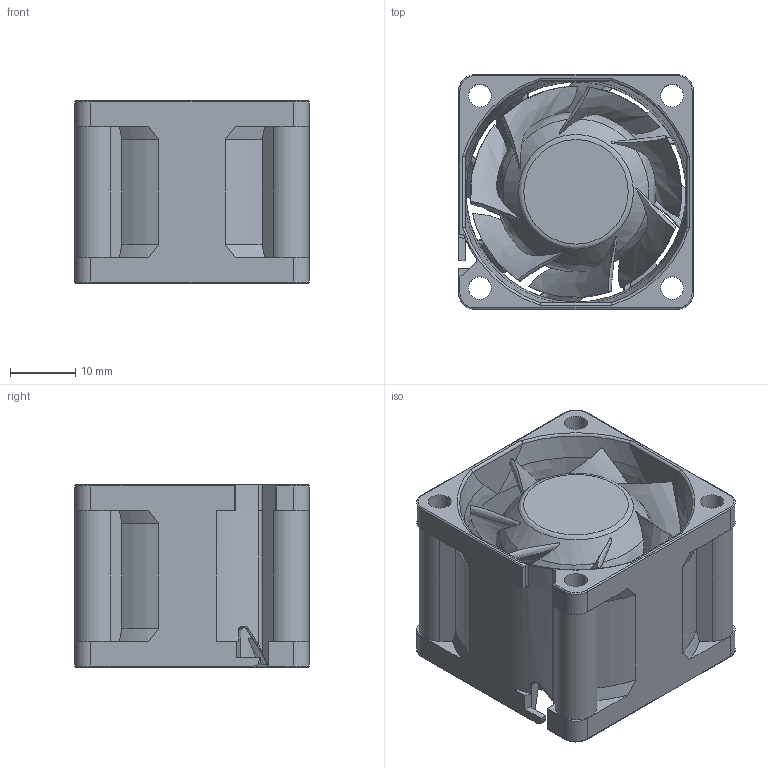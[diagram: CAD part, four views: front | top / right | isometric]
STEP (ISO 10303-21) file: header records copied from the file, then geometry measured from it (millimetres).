
FILE_DESCRIPTION(('STEP AP203'),'2;1');
FILE_NAME('3628GV_RIBBED.stp','2017-04-12T13:48:18',(''),(''),'2013.1.116','THINKDESIGN','');
FILE_SCHEMA(('CONFIG_CONTROL_DESIGN'));
Bounding box: 36 x 36 x 28 mm (x, y, z)
Volume: 20424.4 mm3; surface area: 14005.7 mm2
Topology: 1 solids, 1 shells, 235 faces, 695 edges, 456 vertices
Faces by surface type: bspline 130, cylinder 60, plane 45
Full cylindrical faces by diameter (mm): 3.5 x4, 24 x1, 24.5 x1
Entity records: 41591 total; most frequent: CARTESIAN_POINT 35983, ORIENTED_EDGE 1370, DIRECTION 810, EDGE_CURVE 685, VERTEX_POINT 438, AXIS2_PLACEMENT_3D 314, B_SPLINE_CURVE_WITH_KNOTS 301, EDGE_LOOP 245
